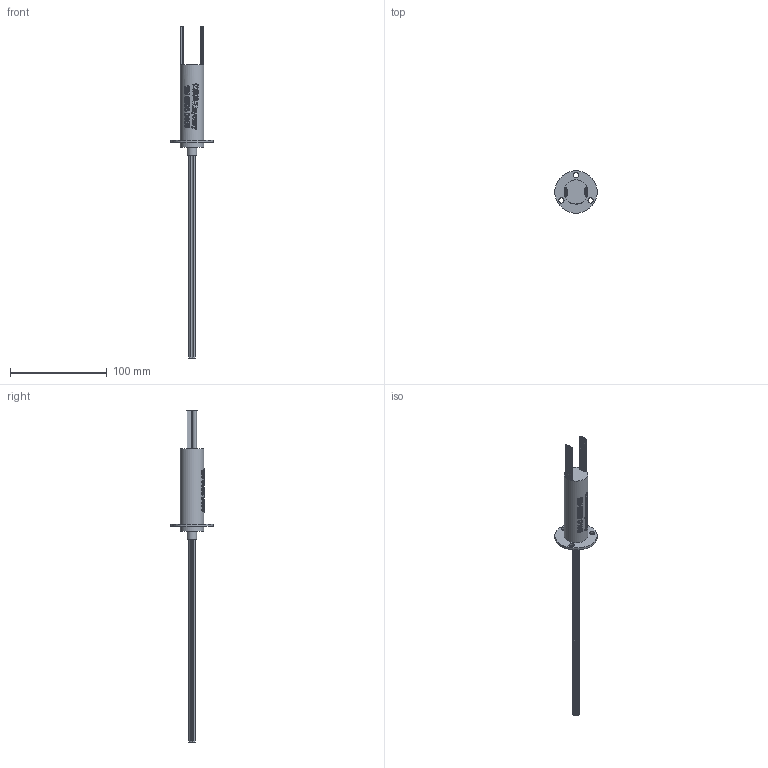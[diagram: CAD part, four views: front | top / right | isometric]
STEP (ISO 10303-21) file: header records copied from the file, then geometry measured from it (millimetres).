
FILE_DESCRIPTION(/* description */ (''),/* implementation_level */ '2;1');
FILE_NAME(/* name */ 'YM025-56-3D模型.stp',/* time_stamp */ '2025-09-05T08:32:11+08:00',/* author */ (''),/* organization */ (''),/* preprocessor_version */ 'ST-DEVELOPER v16.7',/* originating_system */ 'SIEMENS PLM Software NX 12.0',/* authorisation */ '');
FILE_SCHEMA (('AUTOMOTIVE_DESIGN { 1 0 10303 214 3 1 1 1 }'));
Length unit declared in the file: millimetre
Products named in the file (1): Admi30D0F0663a4a
Bounding box: 44 x 44 x 343.5 mm (x, y, z)
Volume: 51294.7 mm3; surface area: 44877.3 mm2
Topology: 1 solids, 1 shells, 915 faces, 2265 edges, 1511 vertices
Faces by surface type: extrusion 450, plane 302, cylinder 134, bspline 29
Full cylindrical faces by diameter (mm): 0.8 x111, 5.5 x3, 9.9 x1, 24.8 x2, 44 x1
Entity records: 34142 total; most frequent: CARTESIAN_POINT 15813, ORIENTED_EDGE 4288, DIRECTION 2168, EDGE_CURVE 2144, B_SPLINE_CURVE_WITH_KNOTS 2116, VERTEX_POINT 1508, EDGE_LOOP 1198, ADVANCED_FACE 915
